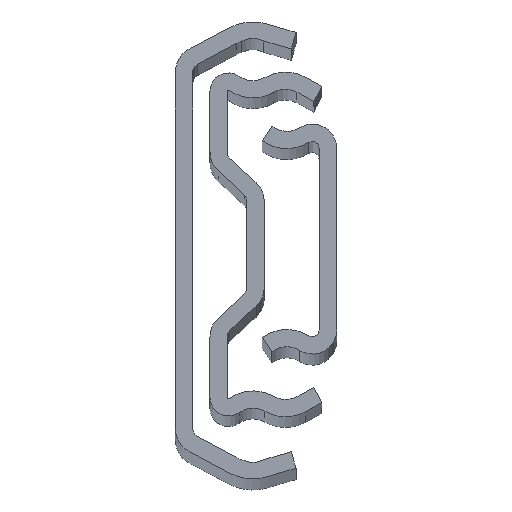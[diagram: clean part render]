
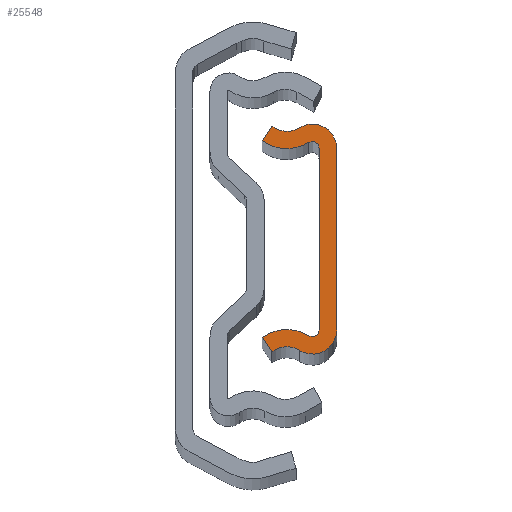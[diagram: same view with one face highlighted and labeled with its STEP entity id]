
A CAD part, top view. The second image highlights one B-rep face of the part: STEP entity #25548.
In plain terms, the highlighted planar face has unit normal (0, 0, 1).
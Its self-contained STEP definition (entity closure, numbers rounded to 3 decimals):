
#678 = CARTESIAN_POINT ( 'NONE',  ( -4.306, -11.422, 0. ) ) ;
#689 = EDGE_CURVE ( 'NONE', #6860, #30643, #37772, .T. ) ;
#721 = CARTESIAN_POINT ( 'NONE',  ( -4.306, -11.422, 0. ) ) ;
#1385 = VERTEX_POINT ( 'NONE', #678 ) ;
#2095 = ORIENTED_EDGE ( 'NONE', *, *, #20950, .T. ) ;
#2136 = VECTOR ( 'NONE', #11345, 1000. ) ;
#2351 = CARTESIAN_POINT ( 'NONE',  ( -1.47, -15.294, 0. ) ) ;
#3067 = VERTEX_POINT ( 'NONE', #10811 ) ;
#3317 = CIRCLE ( 'NONE', #25927, 2.8 ) ;
#4051 = CARTESIAN_POINT ( 'NONE',  ( 2.306, 10.55, 0. ) ) ;
#5118 = DIRECTION ( 'NONE',  ( -1., 0., 0. ) ) ;
#5265 = DIRECTION ( 'NONE',  ( 0., 0., 1. ) ) ;
#5412 = DIRECTION ( 'NONE',  ( 0., 0., 1. ) ) ;
#5431 = AXIS2_PLACEMENT_3D ( 'NONE', #2351, #5265, #8340 ) ;
#6195 = AXIS2_PLACEMENT_3D ( 'NONE', #22654, #31648, #16388 ) ;
#6568 = ORIENTED_EDGE ( 'NONE', *, *, #36562, .T. ) ;
#6647 = VERTEX_POINT ( 'NONE', #30169 ) ;
#6663 = CIRCLE ( 'NONE', #8444, 4.8 ) ;
#6860 = VERTEX_POINT ( 'NONE', #18779 ) ;
#8300 = CARTESIAN_POINT ( 'NONE',  ( -4.306, 11.422, 0. ) ) ;
#8340 = DIRECTION ( 'NONE',  ( 1., 0., 0. ) ) ;
#8444 = AXIS2_PLACEMENT_3D ( 'NONE', #8751, #5412, #14974 ) ;
#8667 = ORIENTED_EDGE ( 'NONE', *, *, #39570, .T. ) ;
#8751 = CARTESIAN_POINT ( 'NONE',  ( -1.47, 15.294, 0. ) ) ;
#9411 = DIRECTION ( 'NONE',  ( 0., 0., 1. ) ) ;
#10811 = CARTESIAN_POINT ( 'NONE',  ( 0.018, -12.922, 0. ) ) ;
#11006 = ORIENTED_EDGE ( 'NONE', *, *, #36784, .T. ) ;
#11140 = VECTOR ( 'NONE', #21973, 1000. ) ;
#11345 = DIRECTION ( 'NONE',  ( -0.555, -0.832, 0. ) ) ;
#11418 = CARTESIAN_POINT ( 'NONE',  ( 1.506, -10.55, 0. ) ) ;
#12525 = CARTESIAN_POINT ( 'NONE',  ( 4.306, 10.55, 0. ) ) ;
#13032 = ORIENTED_EDGE ( 'NONE', *, *, #19620, .T. ) ;
#13334 = CARTESIAN_POINT ( 'NONE',  ( -4.306, 11.422, 0. ) ) ;
#13647 = CARTESIAN_POINT ( 'NONE',  ( 1.506, 10.55, 0. ) ) ;
#13913 = ORIENTED_EDGE ( 'NONE', *, *, #16624, .T. ) ;
#13948 = DIRECTION ( 'NONE',  ( 0., 0., 1. ) ) ;
#14020 = CIRCLE ( 'NONE', #39057, 2.8 ) ;
#14264 = AXIS2_PLACEMENT_3D ( 'NONE', #13647, #28357, #35002 ) ;
#14426 = FACE_OUTER_BOUND ( 'NONE', #23687, .T. ) ;
#14535 = CIRCLE ( 'NONE', #26747, 4.8 ) ;
#14612 = DIRECTION ( 'NONE',  ( 1., 0., 0. ) ) ;
#14807 = CARTESIAN_POINT ( 'NONE',  ( -1.47, 15.294, 0. ) ) ;
#14974 = DIRECTION ( 'NONE',  ( -1., 0., 0. ) ) ;
#15757 = DIRECTION ( 'NONE',  ( -1., 0., 0. ) ) ;
#15822 = VERTEX_POINT ( 'NONE', #36467 ) ;
#16388 = DIRECTION ( 'NONE',  ( 1., 0., 0. ) ) ;
#16624 = EDGE_CURVE ( 'NONE', #34469, #18059, #6663, .T. ) ;
#16885 = DIRECTION ( 'NONE',  ( 1., 0., 0. ) ) ;
#16961 = PLANE ( 'NONE',  #5431 ) ;
#17363 = VERTEX_POINT ( 'NONE', #12525 ) ;
#17540 = CARTESIAN_POINT ( 'NONE',  ( 1.081, 11.228, 0. ) ) ;
#17860 = DIRECTION ( 'NONE',  ( 0., 0., -1. ) ) ;
#18059 = VERTEX_POINT ( 'NONE', #17540 ) ;
#18779 = CARTESIAN_POINT ( 'NONE',  ( 0.018, 12.922, 0. ) ) ;
#19221 = LINE ( 'NONE', #721, #11140 ) ;
#19392 = EDGE_CURVE ( 'NONE', #15822, #1385, #14535, .T. ) ;
#19620 = EDGE_CURVE ( 'NONE', #17363, #6860, #14020, .T. ) ;
#19893 = CARTESIAN_POINT ( 'NONE',  ( 4.306, -10.55, 0. ) ) ;
#20208 = ORIENTED_EDGE ( 'NONE', *, *, #19392, .T. ) ;
#20677 = AXIS2_PLACEMENT_3D ( 'NONE', #14807, #17860, #5118 ) ;
#20917 = ORIENTED_EDGE ( 'NONE', *, *, #26908, .T. ) ;
#20950 = EDGE_CURVE ( 'NONE', #1385, #32219, #19221, .T. ) ;
#21973 = DIRECTION ( 'NONE',  ( 0.555, -0.832, 0. ) ) ;
#22573 = CARTESIAN_POINT ( 'NONE',  ( 2.306, -10.55, 0. ) ) ;
#22654 = CARTESIAN_POINT ( 'NONE',  ( -1.47, -15.294, 0. ) ) ;
#23173 = VECTOR ( 'NONE', #30498, 1000. ) ;
#23687 = EDGE_LOOP ( 'NONE', ( #38333, #38037, #6568, #13032, #36278, #36794, #13913, #11006, #8667, #20917, #20208, #2095 ) ) ;
#23913 = VECTOR ( 'NONE', #34634, 1000. ) ;
#24130 = LINE ( 'NONE', #27293, #23173 ) ;
#25548 = ADVANCED_FACE ( 'Face2', ( #14426 ), #16961, .T. ) ;
#25927 = AXIS2_PLACEMENT_3D ( 'NONE', #11418, #32904, #14612 ) ;
#26747 = AXIS2_PLACEMENT_3D ( 'NONE', #32274, #13948, #16885 ) ;
#26908 = EDGE_CURVE ( 'NONE', #6647, #15822, #36332, .T. ) ;
#27293 = CARTESIAN_POINT ( 'NONE',  ( 4.306, -10.55, 0. ) ) ;
#28006 = CIRCLE ( 'NONE', #14264, 0.8 ) ;
#28202 = EDGE_CURVE ( 'NONE', #3067, #37757, #3317, .T. ) ;
#28357 = DIRECTION ( 'NONE',  ( 0., 0., -1. ) ) ;
#28635 = CARTESIAN_POINT ( 'NONE',  ( -3.194, -13.089, 0. ) ) ;
#29092 = DIRECTION ( 'NONE',  ( 1., 0., 0. ) ) ;
#29306 = CIRCLE ( 'NONE', #6195, 2.8 ) ;
#29340 = CARTESIAN_POINT ( 'NONE',  ( 1.506, -10.55, 0. ) ) ;
#30169 = CARTESIAN_POINT ( 'NONE',  ( 2.306, -10.55, 0. ) ) ;
#30216 = CARTESIAN_POINT ( 'NONE',  ( -3.194, 13.089, 0. ) ) ;
#30498 = DIRECTION ( 'NONE',  ( 0., 1., 0. ) ) ;
#30643 = VERTEX_POINT ( 'NONE', #30216 ) ;
#31648 = DIRECTION ( 'NONE',  ( 0., 0., -1. ) ) ;
#32219 = VERTEX_POINT ( 'NONE', #28635 ) ;
#32274 = CARTESIAN_POINT ( 'NONE',  ( -1.47, -15.294, 0. ) ) ;
#32904 = DIRECTION ( 'NONE',  ( 0., 0., 1. ) ) ;
#34201 = CARTESIAN_POINT ( 'NONE',  ( 1.506, 10.55, 0. ) ) ;
#34469 = VERTEX_POINT ( 'NONE', #13334 ) ;
#34634 = DIRECTION ( 'NONE',  ( 0., -1., 0. ) ) ;
#35002 = DIRECTION ( 'NONE',  ( -1., 0., 0. ) ) ;
#35105 = AXIS2_PLACEMENT_3D ( 'NONE', #29340, #38338, #29092 ) ;
#35520 = LINE ( 'NONE', #8300, #2136 ) ;
#36278 = ORIENTED_EDGE ( 'NONE', *, *, #689, .T. ) ;
#36332 = CIRCLE ( 'NONE', #35105, 0.8 ) ;
#36467 = CARTESIAN_POINT ( 'NONE',  ( 1.081, -11.228, 0. ) ) ;
#36562 = EDGE_CURVE ( 'NONE', #37757, #17363, #24130, .T. ) ;
#36784 = EDGE_CURVE ( 'NONE', #18059, #37252, #28006, .T. ) ;
#36794 = ORIENTED_EDGE ( 'NONE', *, *, #38442, .T. ) ;
#37252 = VERTEX_POINT ( 'NONE', #4051 ) ;
#37757 = VERTEX_POINT ( 'NONE', #19893 ) ;
#37772 = CIRCLE ( 'NONE', #20677, 2.8 ) ;
#38037 = ORIENTED_EDGE ( 'NONE', *, *, #28202, .T. ) ;
#38289 = EDGE_CURVE ( 'NONE', #32219, #3067, #29306, .T. ) ;
#38333 = ORIENTED_EDGE ( 'NONE', *, *, #38289, .T. ) ;
#38338 = DIRECTION ( 'NONE',  ( 0., 0., -1. ) ) ;
#38442 = EDGE_CURVE ( 'NONE', #30643, #34469, #35520, .T. ) ;
#38794 = LINE ( 'NONE', #22573, #23913 ) ;
#39057 = AXIS2_PLACEMENT_3D ( 'NONE', #34201, #9411, #15757 ) ;
#39570 = EDGE_CURVE ( 'NONE', #37252, #6647, #38794, .T. ) ;
